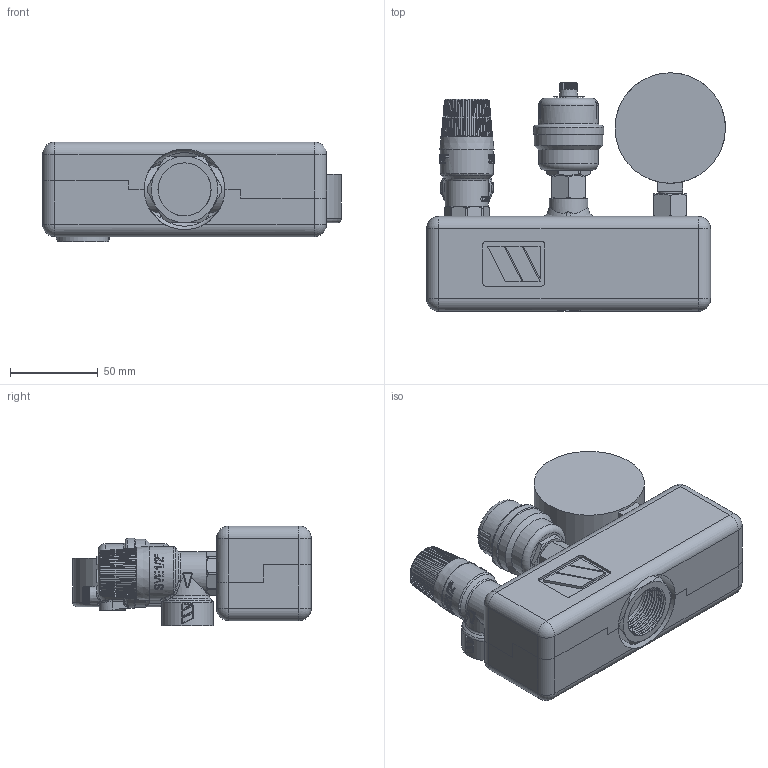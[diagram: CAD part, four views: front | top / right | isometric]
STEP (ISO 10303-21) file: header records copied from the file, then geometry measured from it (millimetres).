
FILE_DESCRIPTION (( 'STEP AP203' ), '1' );
FILE_NAME ('0273330.STEP', '2022-11-25T07:49:34', ( '' ), ( '' ), 'SwSTEP 2.0', 'SolidWorks 2021', '' );
FILE_SCHEMA (( 'CONFIG_CONTROL_DESIGN' ));
Products named in the file (1): 0273330
Bounding box: 170.5 x 136 x 57 mm (x, y, z)
Volume: 303711.4 mm3; surface area: 126004.4 mm2
Topology: 7 solids, 8 shells, 2638 faces, 6977 edges, 4481 vertices
Faces by surface type: plane 1302, bspline 752, cylinder 301, cone 186, torus 67, sphere 30
Full cylindrical faces by diameter (mm): 1.59 x1, 1.6 x1, 3.4 x1, 4 x1, 5.497 x1, 5.5 x1, 6 x1, 7 x1, 8.7 x2, 9.7 x1, 10 x1, 10.2 x4, 13.5 x1, 19 x2, 20 x1, 20.955 x1, 21.85 x1, 22 x2, 22.2 x1, 24 x1, 24.5 x6, 29.5 x1, 30 x2, 30.291 x9, 30.3 x1, 34 x1, 39 x1, 40 x1, 63 x2
Entity records: 134427 total; most frequent: CARTESIAN_POINT 77355, ORIENTED_EDGE 13540, DIRECTION 8986, EDGE_CURVE 6770, VERTEX_POINT 4400, VECTOR 3228, LINE 3228, EDGE_LOOP 2904
